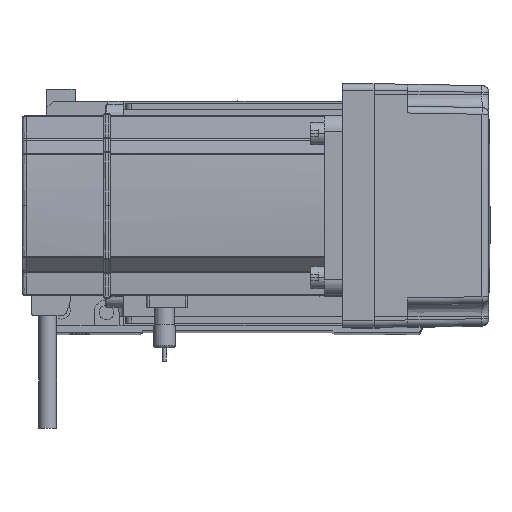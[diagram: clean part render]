
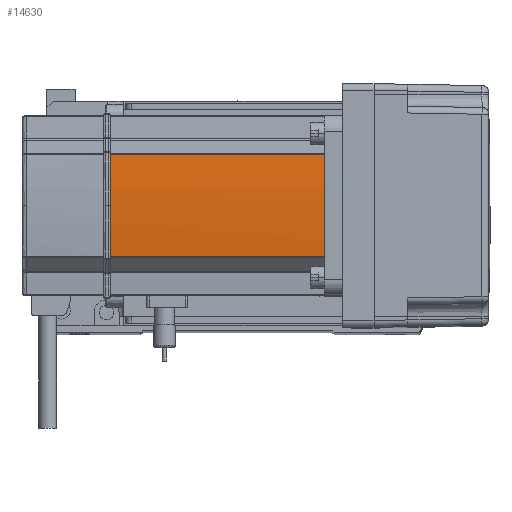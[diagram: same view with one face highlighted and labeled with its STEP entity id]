
A CAD part, top view. The second image highlights one B-rep face of the part: STEP entity #14630.
In plain terms, the highlighted cylindrical face has radius 270 mm (diameter 540 mm), a partial arc.
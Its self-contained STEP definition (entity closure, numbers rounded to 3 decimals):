
#828 = CARTESIAN_POINT ( 'NONE',  ( -39.042, -22.724, 134. ) ) ;
#1383 = VERTEX_POINT ( 'NONE', #5458 ) ;
#1802 = VERTEX_POINT ( 'NONE', #828 ) ;
#5189 = EDGE_CURVE ( 'NONE', #1802, #41081, #18781, .T. ) ;
#5458 = CARTESIAN_POINT ( 'NONE',  ( -39.042, 22.724, 39. ) ) ;
#5913 = AXIS2_PLACEMENT_3D ( 'NONE', #35897, #52227, #12805 ) ;
#6405 = EDGE_CURVE ( 'NONE', #39489, #1802, #17951, .T. ) ;
#9425 = CARTESIAN_POINT ( 'NONE',  ( -39.042, 22.724, 134. ) ) ;
#11990 = CARTESIAN_POINT ( 'NONE',  ( 230., 0., 134. ) ) ;
#12805 = DIRECTION ( 'NONE',  ( 1., 0., 0. ) ) ;
#14486 = AXIS2_PLACEMENT_3D ( 'NONE', #20085, #28129, #41764 ) ;
#14630 = ADVANCED_FACE ( 'NONE', ( #33770 ), #24880, .T. ) ;
#15662 = ORIENTED_EDGE ( 'NONE', *, *, #5189, .T. ) ;
#17951 = LINE ( 'NONE', #43827, #54044 ) ;
#18781 = CIRCLE ( 'NONE', #22189, 270. ) ;
#20085 = CARTESIAN_POINT ( 'NONE',  ( 230., 0., 134. ) ) ;
#21791 = CIRCLE ( 'NONE', #5913, 270. ) ;
#22189 = AXIS2_PLACEMENT_3D ( 'NONE', #11990, #24230, #37335 ) ;
#23502 = VERTEX_POINT ( 'NONE', #9425 ) ;
#24230 = DIRECTION ( 'NONE',  ( 0., 0., -1. ) ) ;
#24663 = CARTESIAN_POINT ( 'NONE',  ( 230., 0., 0. ) ) ;
#24880 = CYLINDRICAL_SURFACE ( 'NONE', #26664, 270. ) ;
#26664 = AXIS2_PLACEMENT_3D ( 'NONE', #24663, #51094, #50899 ) ;
#28129 = DIRECTION ( 'NONE',  ( 0., 0., -1. ) ) ;
#30137 = DIRECTION ( 'NONE',  ( 0., 0., 1. ) ) ;
#30171 = ORIENTED_EDGE ( 'NONE', *, *, #40659, .T. ) ;
#33770 = FACE_OUTER_BOUND ( 'NONE', #54523, .T. ) ;
#34211 = CIRCLE ( 'NONE', #14486, 270. ) ;
#34795 = EDGE_CURVE ( 'NONE', #39489, #1383, #21791, .T. ) ;
#35086 = VECTOR ( 'NONE', #51012, 1000. ) ;
#35897 = CARTESIAN_POINT ( 'NONE',  ( 230., 0., 39. ) ) ;
#37335 = DIRECTION ( 'NONE',  ( 1., 0., 0. ) ) ;
#38277 = EDGE_CURVE ( 'NONE', #23502, #1383, #46616, .T. ) ;
#38637 = ORIENTED_EDGE ( 'NONE', *, *, #34795, .F. ) ;
#39489 = VERTEX_POINT ( 'NONE', #54025 ) ;
#39651 = ORIENTED_EDGE ( 'NONE', *, *, #6405, .T. ) ;
#40659 = EDGE_CURVE ( 'NONE', #41081, #23502, #34211, .T. ) ;
#41081 = VERTEX_POINT ( 'NONE', #48592 ) ;
#41764 = DIRECTION ( 'NONE',  ( 1., 0., 0. ) ) ;
#43827 = CARTESIAN_POINT ( 'NONE',  ( -39.042, -22.724, 0. ) ) ;
#46616 = LINE ( 'NONE', #55391, #35086 ) ;
#48592 = CARTESIAN_POINT ( 'NONE',  ( -40., 0., 134. ) ) ;
#50899 = DIRECTION ( 'NONE',  ( 1., 0., 0. ) ) ;
#51012 = DIRECTION ( 'NONE',  ( 0., 0., -1. ) ) ;
#51094 = DIRECTION ( 'NONE',  ( 0., 0., 1. ) ) ;
#52227 = DIRECTION ( 'NONE',  ( 0., 0., -1. ) ) ;
#54025 = CARTESIAN_POINT ( 'NONE',  ( -39.042, -22.724, 39. ) ) ;
#54044 = VECTOR ( 'NONE', #30137, 1000. ) ;
#54055 = ORIENTED_EDGE ( 'NONE', *, *, #38277, .T. ) ;
#54523 = EDGE_LOOP ( 'NONE', ( #15662, #30171, #54055, #38637, #39651 ) ) ;
#55391 = CARTESIAN_POINT ( 'NONE',  ( -39.042, 22.724, 0. ) ) ;
